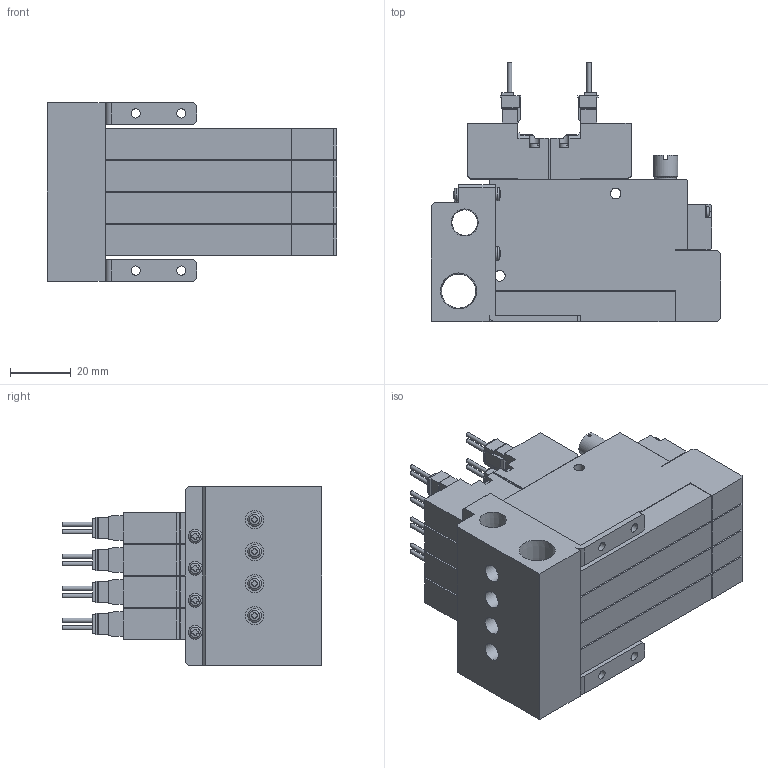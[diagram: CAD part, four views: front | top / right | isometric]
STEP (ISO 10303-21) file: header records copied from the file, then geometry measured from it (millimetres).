
FILE_DESCRIPTION(('STEP AP203'),'1');
FILE_NAME('ZZC5SC404_3D.stp','2024-09-04T13:56:19',(' '),(' '),'Spatial InterOp 3D',' ',' ');
FILE_SCHEMA(('CONFIG_CONTROL_DESIGN'));
Length unit declared in the file: millimetre
Products named in the file (5): BSC1M※※ZZC5SC404; Solenoid valve S; Pressure Sensor ZZ; Unit-C; BaseMC40R
Assembly tree (13 placements, depth 2):
  BSC1M※※ZZC5SC404
    Solenoid valve S  x4
    Pressure Sensor ZZ  x4
    Unit-C  x4
    BaseMC40R
Bounding box: 95 x 85.05 x 58.5 mm (x, y, z)
Volume: 211679.1 mm3; surface area: 74063.5 mm2
Topology: 13 solids, 13 shells, 1463 faces, 3927 edges, 2598 vertices
Faces by surface type: plane 1115, cylinder 276, cone 32, sphere 20, torus 20
Full cylindrical faces by diameter (mm): 1.4 x16, 2.5 x8, 3 x20, 3.5 x24, 4 x4, 4.134 x8, 4.5 x12, 5.5 x4, 6 x4, 7 x8, 8 x4, 8.422 x1, 11.233 x1
Entity records: 17017 total; most frequent: CARTESIAN_POINT 3780, DIRECTION 2647, ORIENTED_EDGE 2556, EDGE_CURVE 1278, VERTEX_POINT 901, AXIS2_PLACEMENT_3D 884, LINE 879, VECTOR 879
